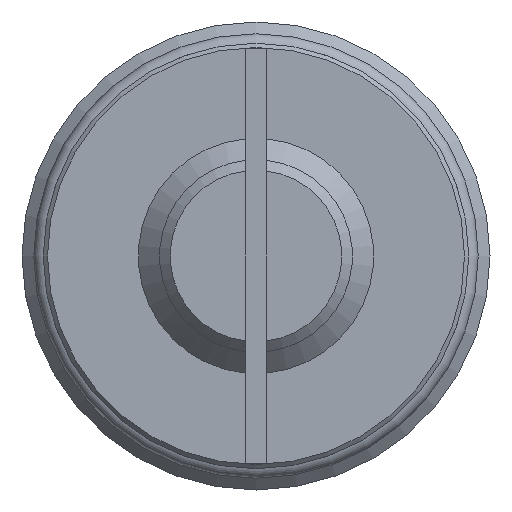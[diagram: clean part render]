
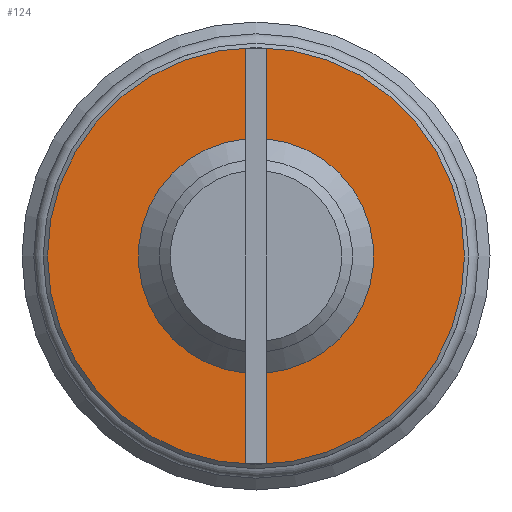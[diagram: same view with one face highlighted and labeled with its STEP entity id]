
A CAD part, left-side view. The second image highlights one B-rep face of the part: STEP entity #124.
In plain terms, the highlighted planar face has unit normal (-1, 0, 0).
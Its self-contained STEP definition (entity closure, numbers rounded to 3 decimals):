
#124 = ADVANCED_FACE( '', ( #280, #281 ), #282, .F. );
#280 = FACE_OUTER_BOUND( '', #465, .T. );
#281 = FACE_BOUND( '', #466, .T. );
#282 = PLANE( '', #467 );
#465 = EDGE_LOOP( '', ( #756 ) );
#466 = EDGE_LOOP( '', ( #757, #758, #759, #760, #761, #762, #763, #764 ) );
#467 = AXIS2_PLACEMENT_3D( '', #765, #766, #767 );
#756 = ORIENTED_EDGE( '', *, *, #1032, .F. );
#757 = ORIENTED_EDGE( '', *, *, #1087, .T. );
#758 = ORIENTED_EDGE( '', *, *, #992, .T. );
#759 = ORIENTED_EDGE( '', *, *, #1090, .T. );
#760 = ORIENTED_EDGE( '', *, *, #1091, .T. );
#761 = ORIENTED_EDGE( '', *, *, #1080, .T. );
#762 = ORIENTED_EDGE( '', *, *, #1092, .T. );
#763 = ORIENTED_EDGE( '', *, *, #1093, .T. );
#764 = ORIENTED_EDGE( '', *, *, #988, .T. );
#765 = CARTESIAN_POINT( '', ( 0., 0., 0. ) );
#766 = DIRECTION( '', ( 1., 0., 0. ) );
#767 = DIRECTION( '', ( 0., 0., -1. ) );
#988 = EDGE_CURVE( '', #1152, #1149, #1153, .T. );
#992 = EDGE_CURVE( '', #1160, #1158, #1161, .T. );
#1032 = EDGE_CURVE( '', #1229, #1229, #1230, .T. );
#1080 = EDGE_CURVE( '', #1306, #1304, #1307, .T. );
#1087 = EDGE_CURVE( '', #1149, #1160, #1315, .T. );
#1090 = EDGE_CURVE( '', #1158, #1318, #1319, .T. );
#1091 = EDGE_CURVE( '', #1318, #1306, #1320, .T. );
#1092 = EDGE_CURVE( '', #1304, #1321, #1322, .T. );
#1093 = EDGE_CURVE( '', #1321, #1152, #1323, .T. );
#1149 = VERTEX_POINT( '', #1387 );
#1152 = VERTEX_POINT( '', #1393 );
#1153 = LINE( '', #1394, #1395 );
#1158 = VERTEX_POINT( '', #1402 );
#1160 = VERTEX_POINT( '', #1405 );
#1161 = LINE( '', #1406, #1407 );
#1229 = VERTEX_POINT( '', #1505 );
#1230 = CIRCLE( '', #1506, 9.8 );
#1304 = VERTEX_POINT( '', #1609 );
#1306 = VERTEX_POINT( '', #1614 );
#1307 = CIRCLE( '', #1615, 5.53 );
#1315 = CIRCLE( '', #1633, 5.53 );
#1318 = VERTEX_POINT( '', #1636 );
#1319 = LINE( '', #1637, #1638 );
#1320 = LINE( '', #1639, #1640 );
#1321 = VERTEX_POINT( '', #1641 );
#1322 = LINE( '', #1642, #1643 );
#1323 = LINE( '', #1644, #1645 );
#1387 = CARTESIAN_POINT( '', ( 0., -0.5, 5.507 ) );
#1393 = CARTESIAN_POINT( '', ( 0., -0.5, 9.75 ) );
#1394 = CARTESIAN_POINT( '', ( 0., -0.5, 9.75 ) );
#1395 = VECTOR( '', #1732, 1000. );
#1402 = CARTESIAN_POINT( '', ( 0., -0.5, -9.75 ) );
#1405 = CARTESIAN_POINT( '', ( 0., -0.5, -5.507 ) );
#1406 = CARTESIAN_POINT( '', ( 0., -0.5, 9.75 ) );
#1407 = VECTOR( '', #1736, 1000. );
#1505 = CARTESIAN_POINT( '', ( 0., 0., -9.8 ) );
#1506 = AXIS2_PLACEMENT_3D( '', #1779, #1780, #1781 );
#1609 = CARTESIAN_POINT( '', ( 0., 0.5, 5.507 ) );
#1614 = CARTESIAN_POINT( '', ( 0., 0.5, -5.507 ) );
#1615 = AXIS2_PLACEMENT_3D( '', #1836, #1837, #1838 );
#1633 = AXIS2_PLACEMENT_3D( '', #1840, #1841, #1842 );
#1636 = CARTESIAN_POINT( '', ( 0., 0.5, -9.75 ) );
#1637 = CARTESIAN_POINT( '', ( 0., -0.5, -9.75 ) );
#1638 = VECTOR( '', #1846, 1000. );
#1639 = CARTESIAN_POINT( '', ( 0., 0.5, -9.75 ) );
#1640 = VECTOR( '', #1847, 1000. );
#1641 = CARTESIAN_POINT( '', ( 0., 0.5, 9.75 ) );
#1642 = CARTESIAN_POINT( '', ( 0., 0.5, -9.75 ) );
#1643 = VECTOR( '', #1848, 1000. );
#1644 = CARTESIAN_POINT( '', ( 0., 0.5, 9.75 ) );
#1645 = VECTOR( '', #1849, 1000. );
#1732 = DIRECTION( '', ( 0., 0., -1. ) );
#1736 = DIRECTION( '', ( 0., 0., -1. ) );
#1779 = CARTESIAN_POINT( '', ( 0., 0., 0. ) );
#1780 = DIRECTION( '', ( 1., 0., 0. ) );
#1781 = DIRECTION( '', ( 0., 0., -1. ) );
#1836 = CARTESIAN_POINT( '', ( 0., 0., 0. ) );
#1837 = DIRECTION( '', ( 1., 0., 0. ) );
#1838 = DIRECTION( '', ( 0., 0., -1. ) );
#1840 = CARTESIAN_POINT( '', ( 0., 0., 0. ) );
#1841 = DIRECTION( '', ( 1., 0., 0. ) );
#1842 = DIRECTION( '', ( 0., 0., -1. ) );
#1846 = DIRECTION( '', ( 0., 1., 0. ) );
#1847 = DIRECTION( '', ( 0., 0., 1. ) );
#1848 = DIRECTION( '', ( 0., 0., 1. ) );
#1849 = DIRECTION( '', ( 0., -1., 0. ) );
